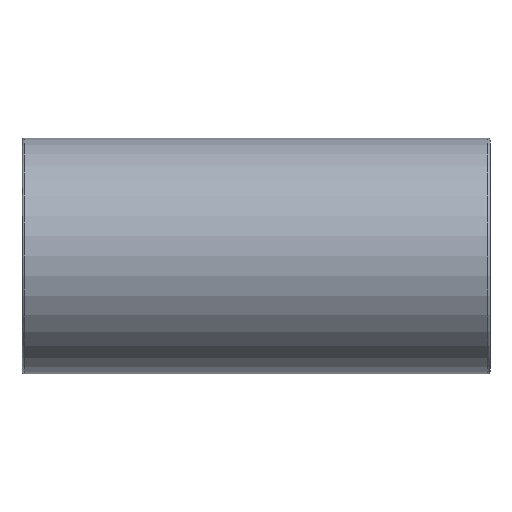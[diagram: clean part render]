
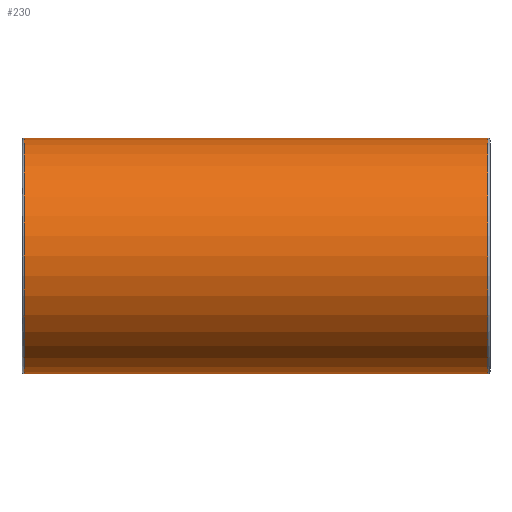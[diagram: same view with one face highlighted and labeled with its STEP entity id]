
A CAD part, front view. The second image highlights one B-rep face of the part: STEP entity #230.
In plain terms, the highlighted cylindrical face has radius 36.5 mm (diameter 73 mm), a full revolution.
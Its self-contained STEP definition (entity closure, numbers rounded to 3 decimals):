
#15=ELLIPSE('',#253,51.619,36.5);
#16=ELLIPSE('',#254,51.619,36.5);
#21=CYLINDRICAL_SURFACE('',#259,36.5);
#38=FACE_BOUND('',#85,.T.);
#39=FACE_BOUND('',#86,.T.);
#59=FACE_OUTER_BOUND('',#84,.T.);
#84=EDGE_LOOP('',(#187));
#85=EDGE_LOOP('',(#188,#189));
#86=EDGE_LOOP('',(#190));
#118=CIRCLE('',#260,36.5);
#119=CIRCLE('',#261,36.5);
#134=VERTEX_POINT('',#383);
#135=VERTEX_POINT('',#384);
#138=VERTEX_POINT('',#394);
#139=VERTEX_POINT('',#396);
#156=EDGE_CURVE('',#134,#135,#15,.T.);
#157=EDGE_CURVE('',#135,#134,#16,.T.);
#160=EDGE_CURVE('',#138,#138,#118,.T.);
#161=EDGE_CURVE('',#139,#139,#119,.T.);
#187=ORIENTED_EDGE('',*,*,#160,.F.);
#188=ORIENTED_EDGE('',*,*,#156,.T.);
#189=ORIENTED_EDGE('',*,*,#157,.T.);
#190=ORIENTED_EDGE('',*,*,#161,.F.);
#230=ADVANCED_FACE('',(#59,#38,#39),#21,.T.);
#253=AXIS2_PLACEMENT_3D('',#385,#304,#305);
#254=AXIS2_PLACEMENT_3D('',#386,#306,#307);
#259=AXIS2_PLACEMENT_3D('',#393,#316,#317);
#260=AXIS2_PLACEMENT_3D('',#395,#318,#319);
#261=AXIS2_PLACEMENT_3D('',#397,#320,#321);
#304=DIRECTION('center_axis',(0.707,-0.707,0.));
#305=DIRECTION('ref_axis',(-0.707,-0.707,0.));
#306=DIRECTION('center_axis',(-0.707,-0.707,0.));
#307=DIRECTION('ref_axis',(-0.707,0.707,0.));
#316=DIRECTION('center_axis',(1.,0.,0.));
#317=DIRECTION('ref_axis',(0.,1.,0.));
#318=DIRECTION('center_axis',(-1.,0.,0.));
#319=DIRECTION('ref_axis',(0.,-1.,0.));
#320=DIRECTION('center_axis',(1.,0.,0.));
#321=DIRECTION('ref_axis',(0.,-1.,0.));
#383=CARTESIAN_POINT('',(0.,0.,-36.5));
#384=CARTESIAN_POINT('',(0.,0.,36.5));
#385=CARTESIAN_POINT('Origin',(0.,0.,0.));
#386=CARTESIAN_POINT('Origin',(0.,0.,0.));
#393=CARTESIAN_POINT('Origin',(0.,0.,
0.));
#394=CARTESIAN_POINT('',(-71.87,36.5,0.));
#395=CARTESIAN_POINT('Origin',(-71.87,0.,0.));
#396=CARTESIAN_POINT('',(71.87,36.5,0.));
#397=CARTESIAN_POINT('Origin',(71.87,0.,0.));
